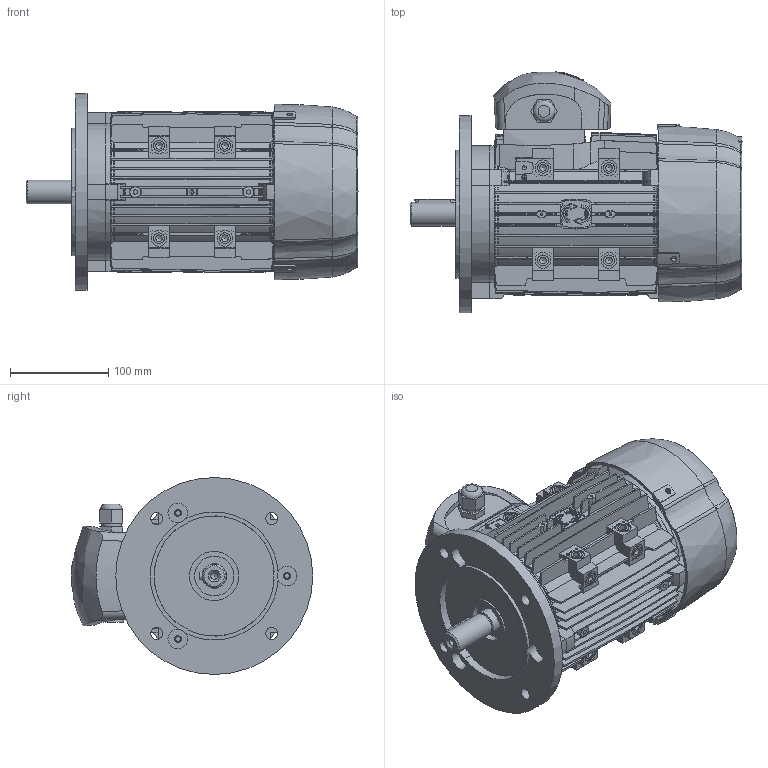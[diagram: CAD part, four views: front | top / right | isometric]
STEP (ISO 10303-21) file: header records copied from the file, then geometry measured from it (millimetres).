
FILE_DESCRIPTION((''),'2;1');
FILE_NAME('D:\htdocs\motive\source_step\M90L.stp','2014-09-02T16:49:46',('ing.Casini'),(''),'Autodesk Inventor 2010','Autodesk Inventor 2010','');
FILE_SCHEMA(('AUTOMOTIVE_DESIGN { 1 0 10303 214 1 1 1 1 }'));
Length unit declared in the file: millimetre
Products named in the file (7): M90L Lighter motor Assly_27.08; BODY90L; B590; NDE90_As per DE Cover; SH90L; TBOX90_100; FCV90
Assembly tree (6 placements, depth 2):
  M90L Lighter motor Assly_27.08
    BODY90L
    B590
    NDE90_As per DE Cover
    SH90L
    TBOX90_100
    FCV90
Bounding box: 337.12 x 245.15 x 200 mm (x, y, z)
Volume: 4091688.5 mm3; surface area: 667247.9 mm2
Topology: 6 solids, 6 shells, 2205 faces, 6119 edges, 4059 vertices
Faces by surface type: plane 831, bspline 554, cylinder 467, torus 184, cone 167, sphere 2
Full cylindrical faces by diameter (mm): 2.5 x4, 4.2 x16, 5 x9, 5.4 x2, 6 x3, 6.6 x3, 6.8 x12, 7 x4, 11 x15, 12 x4, 20 x4, 23 x1, 24 x1, 25 x4, 40 x2, 42 x2, 50 x2, 52 x3, 55 x1, 64 x1, 125 x1, 131 x2, 200 x1
Entity records: 105368 total; most frequent: CARTESIAN_POINT 53606, ORIENTED_EDGE 11826, DIRECTION 8959, EDGE_CURVE 5913, VERTEX_POINT 4001, AXIS2_PLACEMENT_3D 3333, EDGE_LOOP 2526, VECTOR 2293
